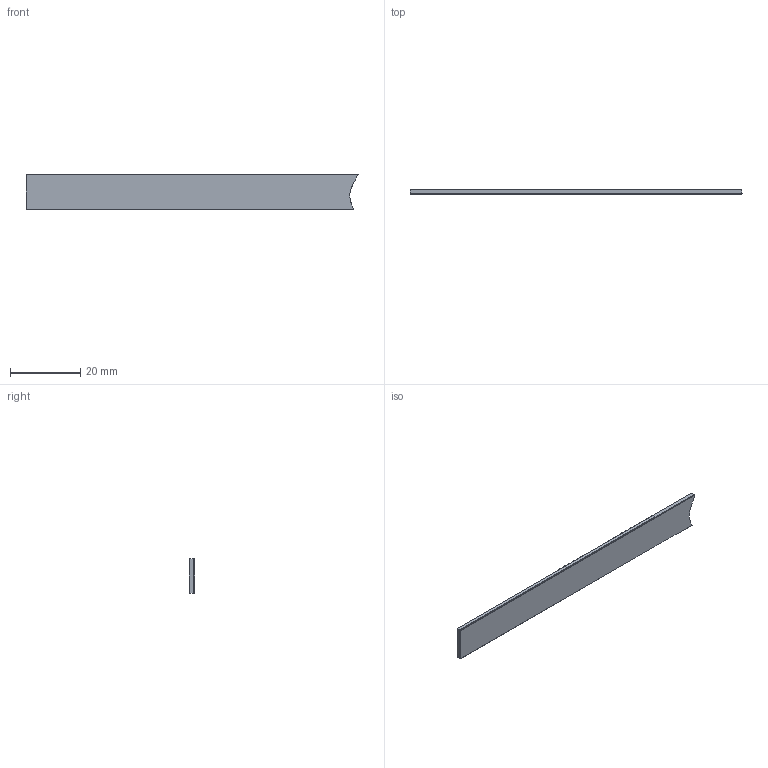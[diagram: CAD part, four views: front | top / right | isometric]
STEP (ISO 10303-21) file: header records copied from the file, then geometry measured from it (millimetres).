
FILE_DESCRIPTION(/* description */ ('','CAx-IF Rec.Pracs.---Representation and Presentation of Product Manufacturing Information (PMI)---4.0---2014-10-13'),/* implementation_level */ '2;1');
FILE_NAME(/* name */ 'C:\DESKTOP\홈페이지용 엔코더 3D 데이타 및 사진관련 자료\Linear Encoder\LE128-1000-2-V-L-5\Magnetic_Tape_10-1000.stp',/* time_stamp */ '2023-06-05T23:43:23+08:00',/* author */ ('hnckhn'),/* organization */ (''),/* preprocessor_version */ 'ST-DEVELOPER v18.1',/* originating_system */ 'Autodesk Inventor 2021',/* authorisation */ '');
FILE_SCHEMA (('AP242_MANAGED_MODEL_BASED_3D_ENGINEERING_MIM_LF { 1 0 10303 442 1 1 4 }'));
Length unit declared in the file: millimetre
Products named in the file (1): magnetic-tape-MS10
Bounding box: 94.49 x 1.5 x 10 mm (x, y, z)
Volume: 1330.7 mm3; surface area: 2736 mm2
Topology: 15 solids, 15 shells, 118 faces, 298 edges, 254 vertices
Faces by surface type: plane 115, cylinder 2, bspline 1
Entity records: 3631 total; most frequent: CARTESIAN_POINT 709, DIRECTION 514, ORIENTED_EDGE 512, EDGE_CURVE 256, LINE 248, VECTOR 248, VERTEX_POINT 170, STYLED_ITEM 145
